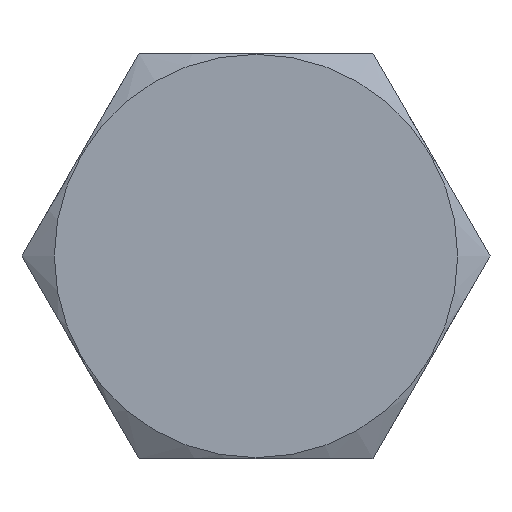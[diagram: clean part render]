
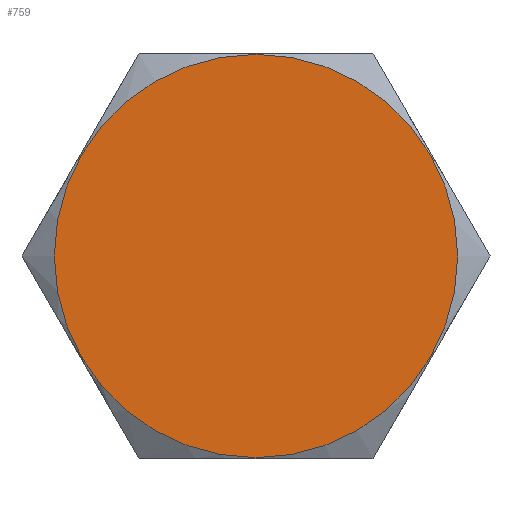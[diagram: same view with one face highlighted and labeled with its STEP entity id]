
A CAD part, front view. The second image highlights one B-rep face of the part: STEP entity #759.
In plain terms, the highlighted planar face has unit normal (0, -1, 0).
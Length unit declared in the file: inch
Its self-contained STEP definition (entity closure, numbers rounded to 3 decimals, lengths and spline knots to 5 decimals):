
#72=PLANE('',#859);
#112=FACE_OUTER_BOUND('',#160,.T.);
#160=EDGE_LOOP('',(#606));
#275=CIRCLE('',#858,0.684);
#355=VERTEX_POINT('',#1425);
#449=EDGE_CURVE('',#355,#355,#275,.T.);
#606=ORIENTED_EDGE('',*,*,#449,.F.);
#759=ADVANCED_FACE('',(#112),#72,.T.);
#858=AXIS2_PLACEMENT_3D('',#1426,#1024,#1025);
#859=AXIS2_PLACEMENT_3D('',#1428,#1027,#1028);
#1024=DIRECTION('center_axis',(0.,1.,0.));
#1025=DIRECTION('ref_axis',(0.,0.,1.));
#1027=DIRECTION('center_axis',(0.,-1.,0.));
#1028=DIRECTION('ref_axis',(0.,0.,-1.));
#1425=CARTESIAN_POINT('',(0.,0.,-0.684));
#1426=CARTESIAN_POINT('Origin',(0.,0.,0.));
#1428=CARTESIAN_POINT('Origin',(0.,0.,0.));
